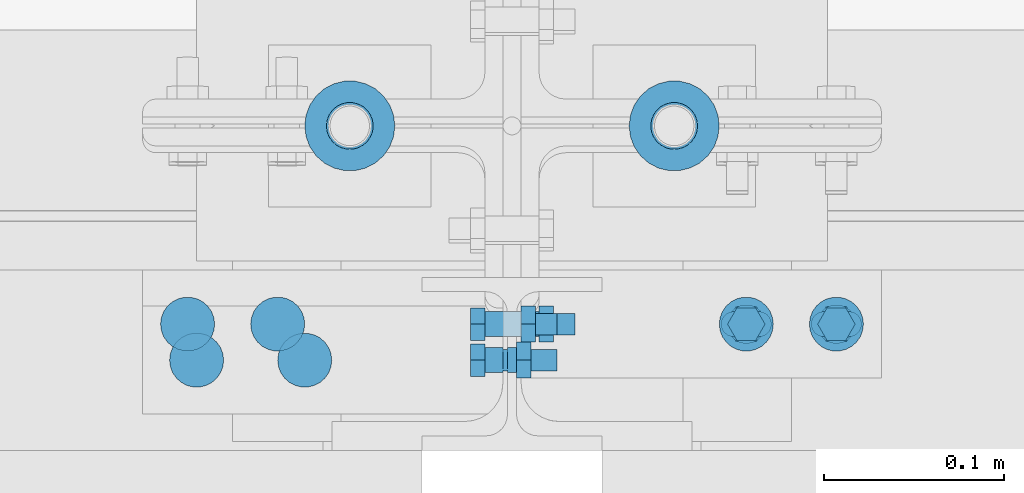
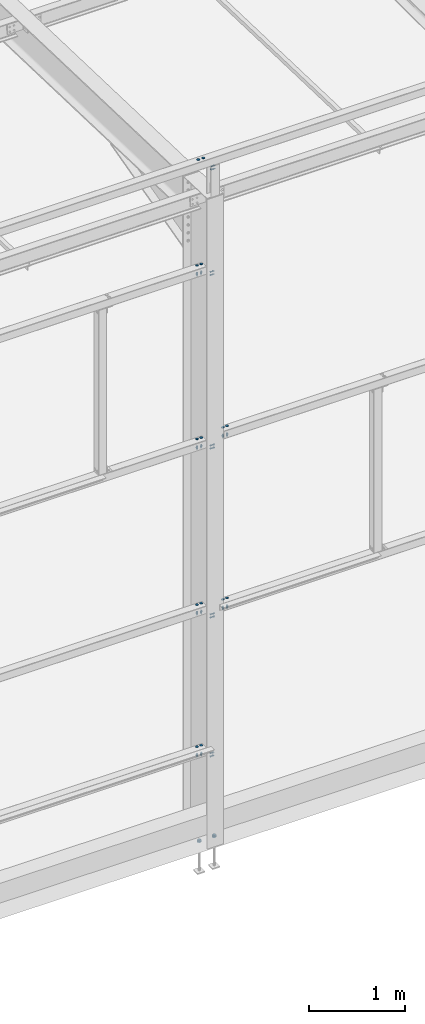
# One storey, part 215 of 362: 22 mechanical fasteners.
"""IFC2X3 building model written with IfcOpenShell, lengths in millimetres."""

from ifc_helpers import new_model, si_unit, frame, frame_2d, origin_with_axes, origin_2d_with_axis, place, context, subcontext, project, spatial, polyline, circle_curve, parameter, trimmed, segment, composite_curve, circle, outline, extrude, source, transform, mapped, material, type_object, element, save


model = new_model("IFC2X3")

# Units and contexts
model_context = context("Model", 3, precision=1e-05, world=origin_with_axes())
body_context = subcontext(model_context, "Body", "Model", "MODEL_VIEW")
ifc_project = project(units=[si_unit("LENGTHUNIT", "METRE", prefix="MILLI"), si_unit("AREAUNIT", "SQUARE_METRE"), si_unit("VOLUMEUNIT", "CUBIC_METRE"), si_unit("MASSUNIT", "GRAM", prefix="KILO"), si_unit("TIMEUNIT", "SECOND"), si_unit("PLANEANGLEUNIT", "RADIAN"), si_unit("SOLIDANGLEUNIT", "STERADIAN"), si_unit("THERMODYNAMICTEMPERATUREUNIT", "DEGREE_CELSIUS"), si_unit("LUMINOUSINTENSITYUNIT", "LUMEN")], contexts=[model_context])

# Site, building, storey
site_placement = place(None, origin_with_axes())
site = spatial("IfcSite", under=ifc_project, at=site_placement, Name="Undefined", CompositionType="ELEMENT")
building_placement = place(site_placement, origin_with_axes())
building = spatial("IfcBuilding", under=site, at=building_placement, Name="Undefined", CompositionType="ELEMENT")
storey_placement = place(building_placement, origin_with_axes())
storey = spatial("IfcBuildingStorey", under=building, at=storey_placement, Name="Undefined", CompositionType="ELEMENT", Elevation=0.0)

# Mechanical fasteners
ifc_material_1 = material(Name="6.8")
mechanical_fastener_type = type_object("IfcMechanicalFastenerType", Name="Bolt assembly")
shared_shape_1 = source(origin_with_axes(), body_context, "Body", "SweptSolid", [
    extrude(circle(Radius=15.0, at=origin_2d_with_axis()), frame((0.0, 0.0, 0.0), z_axis=(0.0, 1.0, 0.0), x_axis=(1.0, 0.0, 0.0)), (0.0, 0.0, 1.0), 4.1),
])
mechanical_fastener_1_placement = place(storey_placement, frame((8305.0000059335, -130.000005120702, 8550.0), z_axis=(0.0, 1.0, 0.0), x_axis=(1.0, 0.0, 0.0)))
element("IfcMechanicalFastener", 1, at=mechanical_fastener_1_placement, inside=storey, type_object=mechanical_fastener_type, material=ifc_material_1, Name="Bolt assembly", NominalDiameter=30.0, NominalLength=4.0, context=body_context, shape_type="MappedRepresentation", body=[
    mapped(shared_shape_1, transform((0.0, 0.0, 0.0))),
    mapped(shared_shape_1, transform((60.0, 0.0, 0.0))),
])
for number, where, z_axis, x_axis, name in (
    (2, (8299.99999742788, -110.000005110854, 1100.0), (0.0, 1.0, 0.0), (1.0, 0.0, 0.0), "Bolt assembly"),
    (3, (8299.99999742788, -110.000005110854, 7200.0), (0.0, 1.0, 0.0), (1.0, 0.0, 0.0), "Bolt assembly"),
    (4, (8299.99999742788, -110.000005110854, 5000.0), (0.0, 1.0, 0.0), (1.0, 0.0, 0.0), "Bolt assembly"),
    (5, (8659.99999742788, -110.000005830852, 5040.0), (0.0, -1.0, 0.0), (-1.0, 0.0, 0.0), "Bolt assembly"),
    (6, (8299.99999742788, -110.000005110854, 2900.0), (0.0, 1.0, 0.0), (1.0, 0.0, 0.0), "Bolt assembly"),
    (7, (8659.99999742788, -110.000005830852, 2860.0), (0.0, -1.0, 0.0), (-1.0, 0.0, 0.0), "Bolt assembly"),
):
    element("IfcMechanicalFastener", number, at=place(storey_placement, frame(where, z_axis=z_axis, x_axis=x_axis)), inside=storey, type_object=mechanical_fastener_type, material=ifc_material_1, Name=name, NominalDiameter=30.0, NominalLength=4.0, context=body_context, shape_type="MappedRepresentation", body=[
        mapped(shared_shape_1, transform((0.0, 0.0, 0.0))),
        mapped(shared_shape_1, transform((49.9999999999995, 0.0, -3.63797880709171e-12))),
    ])
ifc_material_2 = material(Name="8.8-SB-ZINGUE")
shared_shape_2 = source(origin_with_axes(), body_context, "Body", "SweptSolid", [
    extrude(circle(Radius=7.0, at=origin_2d_with_axis()), frame((0.0, -2.60000006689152, 0.0), z_axis=(0.0, 1.0, 0.0), x_axis=(1.0, 0.0, 0.0)), (0.0, 0.0, 1.0), 5.1),
    extrude(circle(Radius=7.0, at=origin_2d_with_axis()), frame((0.0, -14.899999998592, 0.0), z_axis=(0.0, 1.0, 0.0), x_axis=(1.0, 0.0, 0.0)), (0.0, 0.0, 1.0), 10.0),
    extrude(outline(polyline([(10.39230484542, 0.0), (5.19615242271, 9.00000000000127), (-5.19615242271, 9.00000000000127), (-10.39230484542, 0.0), (-5.19615242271, -9.00000000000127), (5.19615242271, -9.00000000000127), (10.39230484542, 0.0)])), frame((0.0, -22.919999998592, 0.0), z_axis=(0.0, 1.0, 0.0), x_axis=(1.0, 0.0, 0.0)), (0.0, 0.0, 1.0), 7.92),
    extrude(circle(Radius=6.0, at=origin_2d_with_axis()), frame((0.0, -14.999999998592, 0.0), z_axis=(0.0, 1.0, 0.0), x_axis=(1.0, 0.0, 0.0)), (0.0, 0.0, 1.0), 40.0),
    extrude(outline(polyline([(11.5008173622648, 0.0), (5.7504086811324, 9.96000000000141), (-5.7504086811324, 9.96000000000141), (-11.5008173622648, 0.0), (-5.7504086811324, -9.96000000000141), (5.7504086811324, -9.96000000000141), (11.5008173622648, 0.0)])), frame((0.0, 2.49999993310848, 0.0), z_axis=(0.0, 1.0, 0.0), x_axis=(1.0, 0.0, 0.0)), (0.0, 0.0, 1.0), 7.92),
])
mechanical_fastener_2_placement = place(storey_placement, frame((8480.00000529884, -130.000007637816, 8370.0), z_axis=(0.0, 1.0, 0.0), x_axis=(0.0, 0.0, 1.0)))
element("IfcMechanicalFastener", 8, at=mechanical_fastener_2_placement, inside=storey, type_object=mechanical_fastener_type, material=ifc_material_2, Name="Bolt assembly", NominalDiameter=12.0, NominalLength=40.0, context=body_context, shape_type="MappedRepresentation", body=[
    mapped(shared_shape_2, transform((0.0, 0.0, 0.0))),
    mapped(shared_shape_2, transform((40.0, 0.0, 0.0))),
])
shared_shape_3 = source(origin_with_axes(), body_context, "Body", "SweptSolid", [
    extrude(circle(Radius=7.0, at=origin_2d_with_axis()), frame((0.0, -5.20247238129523, 0.0), z_axis=(0.0, 1.0, 0.0), x_axis=(1.0, 0.0, 0.0)), (0.0, 0.0, 1.0), 10.3),
    extrude(circle(Radius=7.0, at=origin_2d_with_axis()), frame((0.0, -14.899999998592, 0.0), z_axis=(0.0, 1.0, 0.0), x_axis=(1.0, 0.0, 0.0)), (0.0, 0.0, 1.0), 10.0),
    extrude(outline(polyline([(10.39230484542, 0.0), (5.19615242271, 9.00000000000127), (-5.19615242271, 9.00000000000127), (-10.39230484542, 0.0), (-5.19615242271, -9.00000000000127), (5.19615242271, -9.00000000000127), (10.39230484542, 0.0)])), frame((0.0, -22.919999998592, 0.0), z_axis=(0.0, 1.0, 0.0), x_axis=(1.0, 0.0, 0.0)), (0.0, 0.0, 1.0), 7.92),
    extrude(circle(Radius=6.0, at=origin_2d_with_axis()), frame((0.0, -14.999999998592, 0.0), z_axis=(0.0, 1.0, 0.0), x_axis=(1.0, 0.0, 0.0)), (0.0, 0.0, 1.0), 40.0),
    extrude(outline(polyline([(11.5008173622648, 0.0), (5.7504086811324, 9.96000000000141), (-5.7504086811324, 9.96000000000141), (-11.5008173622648, 0.0), (-5.7504086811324, -9.96000000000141), (5.7504086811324, -9.96000000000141), (11.5008173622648, 0.0)])), frame((0.0, 5.09752742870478, 0.0), z_axis=(0.0, 1.0, 0.0), x_axis=(1.0, 0.0, 0.0)), (0.0, 0.0, 1.0), 7.92),
])
mechanical_fastener_3_placement = place(storey_placement, frame((8480.0, -110.000007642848, 920.0), z_axis=(0.0, 1.0, 0.0), x_axis=(0.0, 0.0, 1.0)))
element("IfcMechanicalFastener", 9, at=mechanical_fastener_3_placement, inside=storey, type_object=mechanical_fastener_type, material=ifc_material_2, Name="Bolt assembly", NominalDiameter=12.0, NominalLength=40.0, context=body_context, shape_type="MappedRepresentation", body=[
    mapped(shared_shape_3, transform((0.0, 0.0, 0.0))),
    mapped(shared_shape_3, transform((40.0, 0.0, 0.0))),
])
shared_shape_4 = source(origin_with_axes(), body_context, "Body", "SweptSolid", [
    extrude(circle(Radius=7.0, at=origin_2d_with_axis()), frame((0.0, -3.89999843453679, 0.0), z_axis=(0.0, 1.0, 0.0), x_axis=(1.0, 0.0, 0.0)), (0.0, 0.0, 1.0), 4.0),
    extrude(outline(composite_curve([segment(polyline([(-7.0, 7.0), (7.0, 7.0)]), True, "CONTINUOUS"), segment(trimmed(circle_curve(frame_2d((7.0, 0.0), x_axis=(0.0, 1.0)), 7.0), [parameter(0.0)], [parameter(3.14159265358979)], False, "PARAMETER"), True, "CONTINUOUS"), segment(polyline([(7.0, -7.0), (-7.0, -7.0)]), True, "CONTINUOUS"), segment(trimmed(circle_curve(frame_2d((-7.0, 0.0), x_axis=(0.0, -1.0)), 7.0), [parameter(0.0)], [parameter(3.14159265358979)], False, "PARAMETER"), True, "DISCONTINUOUS")], self_intersect=False)), frame((0.0, -0.100011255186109, 0.0), z_axis=(0.0, 1.0, 0.0), x_axis=(1.0, 0.0, 0.0)), (0.0, 0.0, 1.0), 10.1),
    extrude(outline(polyline([(10.39230484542, 0.0), (5.19615242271, 9.00000000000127), (-5.19615242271, 9.00000000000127), (-10.39230484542, 0.0), (-5.19615242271, -9.00000000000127), (5.19615242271, -9.00000000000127), (10.39230484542, 0.0)])), frame((0.0, -11.9199984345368, 0.0), z_axis=(0.0, 1.0, 0.0), x_axis=(1.0, 0.0, 0.0)), (0.0, 0.0, 1.0), 7.92),
    extrude(circle(Radius=6.0, at=origin_2d_with_axis()), frame((0.0, -3.99999923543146, 0.0), z_axis=(0.0, 1.0, 0.0), x_axis=(1.0, 0.0, 0.0)), (0.0, 0.0, 1.0), 40.0),
    extrude(circle(Radius=10.8, at=origin_2d_with_axis()), frame((0.0, 10.0000000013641, 0.0), z_axis=(0.0, 1.0, 0.0), x_axis=(1.0, 0.0, 0.0)), (0.0, 0.0, 1.0), 3.96),
    extrude(outline(polyline([(11.5008173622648, 0.0), (5.7504086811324, 9.96000000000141), (-5.7504086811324, 9.96000000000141), (-11.5008173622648, 0.0), (-5.7504086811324, -9.96000000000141), (5.7504086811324, -9.96000000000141), (11.5008173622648, 0.0)])), frame((0.0, 13.96, 0.0), z_axis=(0.0, 1.0, 0.0), x_axis=(1.0, 0.0, 0.0)), (0.0, 0.0, 1.0), 7.92),
])
mechanical_fastener_4_placement = place(storey_placement, frame((8299.99999742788, -110.000005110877, 1000.0), z_axis=(0.0, 1.0, 0.0), x_axis=(1.0, 0.0, 0.0)))
element("IfcMechanicalFastener", 10, at=mechanical_fastener_4_placement, inside=storey, type_object=mechanical_fastener_type, material=ifc_material_2, Name="Bolt assembly", NominalDiameter=12.0, NominalLength=40.0, context=body_context, shape_type="MappedRepresentation", body=[
    mapped(shared_shape_4, transform((0.0, 0.0, 0.0))),
    mapped(shared_shape_4, transform((49.9999999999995, 0.0, -3.63797880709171e-12))),
])
shared_shape_5 = source(origin_with_axes(), body_context, "Body", "SweptSolid", [
    extrude(circle(Radius=7.0, at=origin_2d_with_axis()), frame((0.0, -5.20035653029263, 0.0), z_axis=(0.0, 1.0, 0.0), x_axis=(1.0, 0.0, 0.0)), (0.0, 0.0, 1.0), 10.3),
    extrude(circle(Radius=7.0, at=origin_2d_with_axis()), frame((0.0, -14.899999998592, 0.0), z_axis=(0.0, 1.0, 0.0), x_axis=(1.0, 0.0, 0.0)), (0.0, 0.0, 1.0), 10.0),
    extrude(outline(polyline([(10.39230484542, 0.0), (5.19615242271, 9.00000000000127), (-5.19615242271, 9.00000000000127), (-10.39230484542, 0.0), (-5.19615242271, -9.00000000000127), (5.19615242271, -9.00000000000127), (10.39230484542, 0.0)])), frame((0.0, -22.919999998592, 0.0), z_axis=(0.0, 1.0, 0.0), x_axis=(1.0, 0.0, 0.0)), (0.0, 0.0, 1.0), 7.92),
    extrude(circle(Radius=6.0, at=origin_2d_with_axis()), frame((0.0, -14.999999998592, 0.0), z_axis=(0.0, 1.0, 0.0), x_axis=(1.0, 0.0, 0.0)), (0.0, 0.0, 1.0), 40.0),
    extrude(outline(polyline([(11.5008173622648, 0.0), (5.7504086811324, 9.96000000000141), (-5.7504086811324, 9.96000000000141), (-11.5008173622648, 0.0), (-5.7504086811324, -9.96000000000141), (5.7504086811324, -9.96000000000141), (11.5008173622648, 0.0)])), frame((0.0, 5.0996432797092, 0.0), z_axis=(0.0, 1.0, 0.0), x_axis=(1.0, 0.0, 0.0)), (0.0, 0.0, 1.0), 7.92),
])
mechanical_fastener_5_placement = place(storey_placement, frame((8480.0, -110.000007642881, 7020.0), z_axis=(0.0, 1.0, 0.0), x_axis=(0.0, 0.0, 1.0)))
element("IfcMechanicalFastener", 11, at=mechanical_fastener_5_placement, inside=storey, type_object=mechanical_fastener_type, material=ifc_material_2, Name="Bolt assembly", NominalDiameter=12.0, NominalLength=40.0, context=body_context, shape_type="MappedRepresentation", body=[
    mapped(shared_shape_5, transform((0.0, 0.0, 0.0))),
    mapped(shared_shape_5, transform((40.0, 0.0, 0.0))),
])
shared_shape_6 = source(origin_with_axes(), body_context, "Body", "SweptSolid", [
    extrude(circle(Radius=7.0, at=origin_2d_with_axis()), frame((0.0, -3.89999843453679, 0.0), z_axis=(0.0, 1.0, 0.0), x_axis=(1.0, 0.0, 0.0)), (0.0, 0.0, 1.0), 4.0),
    extrude(outline(composite_curve([segment(polyline([(-7.0, 7.0), (7.0, 7.0)]), True, "CONTINUOUS"), segment(trimmed(circle_curve(frame_2d((7.0, 0.0), x_axis=(0.0, 1.0)), 7.0), [parameter(0.0)], [parameter(3.14159265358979)], False, "PARAMETER"), True, "CONTINUOUS"), segment(polyline([(7.0, -7.0), (-7.0, -7.0)]), True, "CONTINUOUS"), segment(trimmed(circle_curve(frame_2d((-7.0, 0.0), x_axis=(0.0, -1.0)), 7.0), [parameter(0.0)], [parameter(3.14159265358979)], False, "PARAMETER"), True, "DISCONTINUOUS")], self_intersect=False)), frame((0.0, -0.100011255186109, 0.0), z_axis=(0.0, 1.0, 0.0), x_axis=(1.0, 0.0, 0.0)), (0.0, 0.0, 1.0), 10.1),
    extrude(outline(polyline([(10.39230484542, 0.0), (5.19615242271, 9.00000000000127), (-5.19615242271, 9.00000000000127), (-10.39230484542, 0.0), (-5.19615242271, -9.00000000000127), (5.19615242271, -9.00000000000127), (10.39230484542, 0.0)])), frame((0.0, -11.9199984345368, 0.0), z_axis=(0.0, 1.0, 0.0), x_axis=(1.0, 0.0, 0.0)), (0.0, 0.0, 1.0), 7.92),
    extrude(circle(Radius=6.0, at=origin_2d_with_axis()), frame((0.0, -3.99999923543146, 0.0), z_axis=(0.0, 1.0, 0.0), x_axis=(1.0, 0.0, 0.0)), (0.0, 0.0, 1.0), 40.0),
    extrude(circle(Radius=10.8, at=origin_2d_with_axis()), frame((0.0, 10.0000000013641, 0.0), z_axis=(0.0, 1.0, 0.0), x_axis=(1.0, 0.0, 0.0)), (0.0, 0.0, 1.0), 3.96),
    extrude(outline(polyline([(11.5008173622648, 0.0), (5.7504086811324, 9.96000000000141), (-5.7504086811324, 9.96000000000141), (-11.5008173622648, 0.0), (-5.7504086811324, -9.96000000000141), (5.7504086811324, -9.96000000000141), (11.5008173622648, 0.0)])), frame((0.0, 13.96, 0.0), z_axis=(0.0, 1.0, 0.0), x_axis=(1.0, 0.0, 0.0)), (0.0, 0.0, 1.0), 7.92),
])
mechanical_fastener_6_placement = place(storey_placement, frame((8299.99999742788, -110.000005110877, 7100.0), z_axis=(0.0, 1.0, 0.0), x_axis=(1.0, 0.0, 0.0)))
element("IfcMechanicalFastener", 12, at=mechanical_fastener_6_placement, inside=storey, type_object=mechanical_fastener_type, material=ifc_material_2, Name="Bolt assembly", NominalDiameter=12.0, NominalLength=40.0, context=body_context, shape_type="MappedRepresentation", body=[
    mapped(shared_shape_6, transform((0.0, 0.0, 0.0))),
    mapped(shared_shape_6, transform((49.9999999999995, 0.0, -3.63797880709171e-12))),
])
shared_shape_7 = source(origin_with_axes(), body_context, "Body", "SweptSolid", [
    extrude(circle(Radius=7.0, at=origin_2d_with_axis()), frame((0.0, -5.10112302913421, 0.0), z_axis=(0.0, 1.0, 0.0), x_axis=(1.0, 0.0, 0.0)), (0.0, 0.0, 1.0), 10.2),
    extrude(circle(Radius=7.0, at=origin_2d_with_axis()), frame((0.0, -14.899999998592, 0.0), z_axis=(0.0, 1.0, 0.0), x_axis=(1.0, 0.0, 0.0)), (0.0, 0.0, 1.0), 10.0),
    extrude(circle(Radius=7.0, at=origin_2d_with_axis()), frame((0.0, 4.9000000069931, 0.0), z_axis=(0.0, 1.0, 0.0), x_axis=(1.0, 0.0, 0.0)), (0.0, 0.0, 1.0), 10.1),
    extrude(outline(polyline([(10.39230484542, 0.0), (5.19615242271, 9.00000000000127), (-5.19615242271, 9.00000000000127), (-10.39230484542, 0.0), (-5.19615242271, -9.00000000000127), (5.19615242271, -9.00000000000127), (10.39230484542, 0.0)])), frame((0.0, -22.919999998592, 0.0), z_axis=(0.0, 1.0, 0.0), x_axis=(1.0, 0.0, 0.0)), (0.0, 0.0, 1.0), 7.92),
    extrude(circle(Radius=6.0, at=origin_2d_with_axis()), frame((0.0, -14.999999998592, 0.0), z_axis=(0.0, 1.0, 0.0), x_axis=(1.0, 0.0, 0.0)), (0.0, 0.0, 1.0), 50.0),
    extrude(outline(polyline([(11.5008173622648, 0.0), (5.7504086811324, 9.96000000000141), (-5.7504086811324, 9.96000000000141), (-11.5008173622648, 0.0), (-5.7504086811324, -9.96000000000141), (5.7504086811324, -9.96000000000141), (11.5008173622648, 0.0)])), frame((0.0, 15.0000000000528, 0.0), z_axis=(0.0, 1.0, 0.0), x_axis=(1.0, 0.0, 0.0)), (0.0, 0.0, 1.0), 7.92),
])
mechanical_fastener_7_placement = place(storey_placement, frame((8480.0, -110.000007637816, 4820.0), z_axis=(0.0, 1.0, 0.0), x_axis=(0.0, 0.0, 1.0)))
element("IfcMechanicalFastener", 13, at=mechanical_fastener_7_placement, inside=storey, type_object=mechanical_fastener_type, material=ifc_material_2, Name="Bolt assembly", NominalDiameter=12.0, NominalLength=50.0, context=body_context, shape_type="MappedRepresentation", body=[
    mapped(shared_shape_7, transform((0.0, 0.0, 0.0))),
    mapped(shared_shape_7, transform((40.0, 0.0, 0.0))),
])
shared_shape_8 = source(origin_with_axes(), body_context, "Body", "SweptSolid", [
    extrude(circle(Radius=7.0, at=origin_2d_with_axis()), frame((0.0, -3.89999843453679, 0.0), z_axis=(0.0, 1.0, 0.0), x_axis=(1.0, 0.0, 0.0)), (0.0, 0.0, 1.0), 4.0),
    extrude(outline(composite_curve([segment(polyline([(-7.0, 7.0), (7.0, 7.0)]), True, "CONTINUOUS"), segment(trimmed(circle_curve(frame_2d((7.0, 0.0), x_axis=(0.0, 1.0)), 7.0), [parameter(0.0)], [parameter(3.14159265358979)], False, "PARAMETER"), True, "CONTINUOUS"), segment(polyline([(7.0, -7.0), (-7.0, -7.0)]), True, "CONTINUOUS"), segment(trimmed(circle_curve(frame_2d((-7.0, 0.0), x_axis=(0.0, -1.0)), 7.0), [parameter(0.0)], [parameter(3.14159265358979)], False, "PARAMETER"), True, "DISCONTINUOUS")], self_intersect=False)), frame((0.0, -0.100011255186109, 0.0), z_axis=(0.0, 1.0, 0.0), x_axis=(1.0, 0.0, 0.0)), (0.0, 0.0, 1.0), 10.1),
    extrude(outline(polyline([(10.39230484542, 0.0), (5.19615242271, 9.00000000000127), (-5.19615242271, 9.00000000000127), (-10.39230484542, 0.0), (-5.19615242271, -9.00000000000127), (5.19615242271, -9.00000000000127), (10.39230484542, 0.0)])), frame((0.0, -11.9199984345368, 0.0), z_axis=(0.0, 1.0, 0.0), x_axis=(1.0, 0.0, 0.0)), (0.0, 0.0, 1.0), 7.92),
    extrude(circle(Radius=6.0, at=origin_2d_with_axis()), frame((0.0, -3.99999923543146, 0.0), z_axis=(0.0, 1.0, 0.0), x_axis=(1.0, 0.0, 0.0)), (0.0, 0.0, 1.0), 40.0),
    extrude(circle(Radius=10.8, at=origin_2d_with_axis()), frame((0.0, 10.0000000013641, 0.0), z_axis=(0.0, 1.0, 0.0), x_axis=(1.0, 0.0, 0.0)), (0.0, 0.0, 1.0), 3.96),
    extrude(outline(polyline([(11.5008173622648, 0.0), (5.7504086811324, 9.96000000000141), (-5.7504086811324, 9.96000000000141), (-11.5008173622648, 0.0), (-5.7504086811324, -9.96000000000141), (5.7504086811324, -9.96000000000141), (11.5008173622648, 0.0)])), frame((0.0, 13.96, 0.0), z_axis=(0.0, 1.0, 0.0), x_axis=(1.0, 0.0, 0.0)), (0.0, 0.0, 1.0), 7.92),
])
mechanical_fastener_8_placement = place(storey_placement, frame((8299.99999742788, -110.000005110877, 4900.0), z_axis=(0.0, 1.0, 0.0), x_axis=(1.0, 0.0, 0.0)))
element("IfcMechanicalFastener", 14, at=mechanical_fastener_8_placement, inside=storey, type_object=mechanical_fastener_type, material=ifc_material_2, Name="Bolt assembly", NominalDiameter=12.0, NominalLength=40.0, context=body_context, shape_type="MappedRepresentation", body=[
    mapped(shared_shape_8, transform((0.0, 0.0, 0.0))),
    mapped(shared_shape_8, transform((49.9999999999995, 0.0, -3.63797880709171e-12))),
])
shared_shape_9 = source(origin_with_axes(), body_context, "Body", "SweptSolid", [
    extrude(circle(Radius=7.0, at=origin_2d_with_axis()), frame((0.0, -3.89999843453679, 0.0), z_axis=(0.0, 1.0, 0.0), x_axis=(1.0, 0.0, 0.0)), (0.0, 0.0, 1.0), 4.0),
    extrude(outline(composite_curve([segment(polyline([(-7.0, 7.0), (7.0, 7.0)]), True, "CONTINUOUS"), segment(trimmed(circle_curve(frame_2d((7.0, 0.0), x_axis=(0.0, 1.0)), 7.0), [parameter(0.0)], [parameter(3.14159265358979)], False, "PARAMETER"), True, "CONTINUOUS"), segment(polyline([(7.0, -7.0), (-7.0, -7.0)]), True, "CONTINUOUS"), segment(trimmed(circle_curve(frame_2d((-7.0, 0.0), x_axis=(0.0, -1.0)), 7.0), [parameter(0.0)], [parameter(3.14159265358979)], False, "PARAMETER"), True, "DISCONTINUOUS")], self_intersect=False)), frame((0.0, -0.100011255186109, 0.0), z_axis=(0.0, 1.0, 0.0), x_axis=(1.0, 0.0, 0.0)), (0.0, 0.0, 1.0), 10.1),
    extrude(outline(polyline([(10.39230484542, 0.0), (5.19615242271, 9.00000000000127), (-5.19615242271, 9.00000000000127), (-10.39230484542, 0.0), (-5.19615242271, -9.00000000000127), (5.19615242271, -9.00000000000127), (10.39230484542, 0.0)])), frame((0.0, -11.9199984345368, 0.0), z_axis=(0.0, 1.0, 0.0), x_axis=(1.0, 0.0, 0.0)), (0.0, 0.0, 1.0), 7.92),
    extrude(circle(Radius=6.0, at=origin_2d_with_axis()), frame((0.0, -3.99999923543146, 0.0), z_axis=(0.0, 1.0, 0.0), x_axis=(1.0, 0.0, 0.0)), (0.0, 0.0, 1.0), 40.0),
    extrude(circle(Radius=10.8, at=origin_2d_with_axis()), frame((0.0, 10.0000000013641, 0.0), z_axis=(0.0, 1.0, 0.0), x_axis=(1.0, 0.0, 0.0)), (0.0, 0.0, 1.0), 3.96),
    extrude(outline(polyline([(11.5008173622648, 0.0), (5.7504086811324, 9.96000000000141), (-5.7504086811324, 9.96000000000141), (-11.5008173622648, 0.0), (-5.7504086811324, -9.96000000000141), (5.7504086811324, -9.96000000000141), (11.5008173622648, 0.0)])), frame((0.0, 13.96, 0.0), z_axis=(0.0, 1.0, 0.0), x_axis=(1.0, 0.0, 0.0)), (0.0, 0.0, 1.0), 7.92),
])
mechanical_fastener_9_placement = place(storey_placement, frame((8659.99999742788, -110.000005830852, 4940.0), z_axis=(0.0, -1.0, 0.0), x_axis=(-1.0, 0.0, 0.0)))
element("IfcMechanicalFastener", 15, at=mechanical_fastener_9_placement, inside=storey, type_object=mechanical_fastener_type, material=ifc_material_2, Name="Bolt assembly", NominalDiameter=12.0, NominalLength=40.0, context=body_context, shape_type="MappedRepresentation", body=[
    mapped(shared_shape_9, transform((0.0, 0.0, 0.0))),
    mapped(shared_shape_9, transform((49.9999999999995, 0.0, -3.63797880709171e-12))),
])
shared_shape_10 = source(origin_with_axes(), body_context, "Body", "SweptSolid", [
    extrude(circle(Radius=7.0, at=origin_2d_with_axis()), frame((0.0, -5.10183049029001, 0.0), z_axis=(0.0, 1.0, 0.0), x_axis=(1.0, 0.0, 0.0)), (0.0, 0.0, 1.0), 10.2),
    extrude(circle(Radius=7.0, at=origin_2d_with_axis()), frame((0.0, -14.899999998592, 0.0), z_axis=(0.0, 1.0, 0.0), x_axis=(1.0, 0.0, 0.0)), (0.0, 0.0, 1.0), 10.0),
    extrude(circle(Radius=7.0, at=origin_2d_with_axis()), frame((0.0, 4.9000000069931, 0.0), z_axis=(0.0, 1.0, 0.0), x_axis=(1.0, 0.0, 0.0)), (0.0, 0.0, 1.0), 10.1),
    extrude(outline(polyline([(10.39230484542, 0.0), (5.19615242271, 9.00000000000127), (-5.19615242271, 9.00000000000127), (-10.39230484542, 0.0), (-5.19615242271, -9.00000000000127), (5.19615242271, -9.00000000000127), (10.39230484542, 0.0)])), frame((0.0, -22.919999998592, 0.0), z_axis=(0.0, 1.0, 0.0), x_axis=(1.0, 0.0, 0.0)), (0.0, 0.0, 1.0), 7.92),
    extrude(circle(Radius=6.0, at=origin_2d_with_axis()), frame((0.0, -14.999999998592, 0.0), z_axis=(0.0, 1.0, 0.0), x_axis=(1.0, 0.0, 0.0)), (0.0, 0.0, 1.0), 50.0),
    extrude(outline(polyline([(11.5008173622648, 0.0), (5.7504086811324, 9.96000000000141), (-5.7504086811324, 9.96000000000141), (-11.5008173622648, 0.0), (-5.7504086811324, -9.96000000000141), (5.7504086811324, -9.96000000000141), (11.5008173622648, 0.0)])), frame((0.0, 15.0000000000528, 0.0), z_axis=(0.0, 1.0, 0.0), x_axis=(1.0, 0.0, 0.0)), (0.0, 0.0, 1.0), 7.92),
])
mechanical_fastener_10_placement = place(storey_placement, frame((8480.0, -110.000007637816, 2680.0), z_axis=(0.0, 1.0, 0.0), x_axis=(0.0, 0.0, 1.0)))
element("IfcMechanicalFastener", 16, at=mechanical_fastener_10_placement, inside=storey, type_object=mechanical_fastener_type, material=ifc_material_2, Name="Bolt assembly", NominalDiameter=12.0, NominalLength=50.0, context=body_context, shape_type="MappedRepresentation", body=[
    mapped(shared_shape_10, transform((0.0, 0.0, 0.0))),
    mapped(shared_shape_10, transform((40.0, 0.0, 0.0))),
])
shared_shape_11 = source(origin_with_axes(), body_context, "Body", "SweptSolid", [
    extrude(circle(Radius=7.0, at=origin_2d_with_axis()), frame((0.0, -3.89999843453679, 0.0), z_axis=(0.0, 1.0, 0.0), x_axis=(1.0, 0.0, 0.0)), (0.0, 0.0, 1.0), 4.0),
    extrude(outline(composite_curve([segment(polyline([(-7.0, 7.0), (7.0, 7.0)]), True, "CONTINUOUS"), segment(trimmed(circle_curve(frame_2d((7.0, 0.0), x_axis=(0.0, 1.0)), 7.0), [parameter(0.0)], [parameter(3.14159265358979)], False, "PARAMETER"), True, "CONTINUOUS"), segment(polyline([(7.0, -7.0), (-7.0, -7.0)]), True, "CONTINUOUS"), segment(trimmed(circle_curve(frame_2d((-7.0, 0.0), x_axis=(0.0, -1.0)), 7.0), [parameter(0.0)], [parameter(3.14159265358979)], False, "PARAMETER"), True, "DISCONTINUOUS")], self_intersect=False)), frame((0.0, -0.100011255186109, 0.0), z_axis=(0.0, 1.0, 0.0), x_axis=(1.0, 0.0, 0.0)), (0.0, 0.0, 1.0), 10.1),
    extrude(outline(polyline([(10.39230484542, 0.0), (5.19615242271, 9.00000000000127), (-5.19615242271, 9.00000000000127), (-10.39230484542, 0.0), (-5.19615242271, -9.00000000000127), (5.19615242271, -9.00000000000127), (10.39230484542, 0.0)])), frame((0.0, -11.9199984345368, 0.0), z_axis=(0.0, 1.0, 0.0), x_axis=(1.0, 0.0, 0.0)), (0.0, 0.0, 1.0), 7.92),
    extrude(circle(Radius=6.0, at=origin_2d_with_axis()), frame((0.0, -3.99999923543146, 0.0), z_axis=(0.0, 1.0, 0.0), x_axis=(1.0, 0.0, 0.0)), (0.0, 0.0, 1.0), 40.0),
    extrude(circle(Radius=10.8, at=origin_2d_with_axis()), frame((0.0, 10.0000000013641, 0.0), z_axis=(0.0, 1.0, 0.0), x_axis=(1.0, 0.0, 0.0)), (0.0, 0.0, 1.0), 3.96),
    extrude(outline(polyline([(11.5008173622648, 0.0), (5.7504086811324, 9.96000000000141), (-5.7504086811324, 9.96000000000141), (-11.5008173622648, 0.0), (-5.7504086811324, -9.96000000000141), (5.7504086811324, -9.96000000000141), (11.5008173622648, 0.0)])), frame((0.0, 13.96, 0.0), z_axis=(0.0, 1.0, 0.0), x_axis=(1.0, 0.0, 0.0)), (0.0, 0.0, 1.0), 7.92),
])
mechanical_fastener_11_placement = place(storey_placement, frame((8299.99999742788, -110.000005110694, 2800.0), z_axis=(0.0, 1.0, 0.0), x_axis=(1.0, 0.0, 0.0)))
element("IfcMechanicalFastener", 17, at=mechanical_fastener_11_placement, inside=storey, type_object=mechanical_fastener_type, material=ifc_material_2, Name="Bolt assembly", NominalDiameter=12.0, NominalLength=40.0, context=body_context, shape_type="MappedRepresentation", body=[
    mapped(shared_shape_11, transform((0.0, 0.0, 0.0))),
    mapped(shared_shape_11, transform((49.9999999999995, 0.0, -3.63797880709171e-12))),
])
shared_shape_12 = source(origin_with_axes(), body_context, "Body", "SweptSolid", [
    extrude(circle(Radius=7.0, at=origin_2d_with_axis()), frame((0.0, -3.89999843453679, 0.0), z_axis=(0.0, 1.0, 0.0), x_axis=(1.0, 0.0, 0.0)), (0.0, 0.0, 1.0), 4.0),
    extrude(outline(composite_curve([segment(polyline([(-7.0, 7.0), (7.0, 7.0)]), True, "CONTINUOUS"), segment(trimmed(circle_curve(frame_2d((7.0, 0.0), x_axis=(0.0, 1.0)), 7.0), [parameter(0.0)], [parameter(3.14159265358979)], False, "PARAMETER"), True, "CONTINUOUS"), segment(polyline([(7.0, -7.0), (-7.0, -7.0)]), True, "CONTINUOUS"), segment(trimmed(circle_curve(frame_2d((-7.0, 0.0), x_axis=(0.0, -1.0)), 7.0), [parameter(0.0)], [parameter(3.14159265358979)], False, "PARAMETER"), True, "DISCONTINUOUS")], self_intersect=False)), frame((0.0, -0.100011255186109, 0.0), z_axis=(0.0, 1.0, 0.0), x_axis=(1.0, 0.0, 0.0)), (0.0, 0.0, 1.0), 10.1),
    extrude(outline(polyline([(10.39230484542, 0.0), (5.19615242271, 9.00000000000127), (-5.19615242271, 9.00000000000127), (-10.39230484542, 0.0), (-5.19615242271, -9.00000000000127), (5.19615242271, -9.00000000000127), (10.39230484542, 0.0)])), frame((0.0, -11.9199984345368, 0.0), z_axis=(0.0, 1.0, 0.0), x_axis=(1.0, 0.0, 0.0)), (0.0, 0.0, 1.0), 7.92),
    extrude(circle(Radius=6.0, at=origin_2d_with_axis()), frame((0.0, -3.99999923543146, 0.0), z_axis=(0.0, 1.0, 0.0), x_axis=(1.0, 0.0, 0.0)), (0.0, 0.0, 1.0), 40.0),
    extrude(circle(Radius=10.8, at=origin_2d_with_axis()), frame((0.0, 10.0000000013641, 0.0), z_axis=(0.0, 1.0, 0.0), x_axis=(1.0, 0.0, 0.0)), (0.0, 0.0, 1.0), 3.96),
    extrude(outline(polyline([(11.5008173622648, 0.0), (5.7504086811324, 9.96000000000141), (-5.7504086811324, 9.96000000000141), (-11.5008173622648, 0.0), (-5.7504086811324, -9.96000000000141), (5.7504086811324, -9.96000000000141), (11.5008173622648, 0.0)])), frame((0.0, 13.96, 0.0), z_axis=(0.0, 1.0, 0.0), x_axis=(1.0, 0.0, 0.0)), (0.0, 0.0, 1.0), 7.92),
])
mechanical_fastener_12_placement = place(storey_placement, frame((8659.99999742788, -110.000005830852, 2760.0), z_axis=(0.0, -1.0, 0.0), x_axis=(-1.0, 0.0, 0.0)))
element("IfcMechanicalFastener", 18, at=mechanical_fastener_12_placement, inside=storey, type_object=mechanical_fastener_type, material=ifc_material_2, Name="Bolt assembly", NominalDiameter=12.0, NominalLength=40.0, context=body_context, shape_type="MappedRepresentation", body=[
    mapped(shared_shape_12, transform((0.0, 0.0, 0.0))),
    mapped(shared_shape_12, transform((49.9999999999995, 0.0, -3.63797880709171e-12))),
])
shared_shape_13 = source(origin_with_axes(), body_context, "Body", "SweptSolid", [
    extrude(circle(Radius=25.0, at=origin_2d_with_axis()), frame((0.0, -14.999999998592, 0.0), z_axis=(0.0, 1.0, 0.0), x_axis=(1.0, 0.0, 0.0)), (0.0, 0.0, 1.0), 15.1),
])
for number, where, z_axis, x_axis, name in (
    (19, (8389.99715045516, -7.28869054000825e-09, -200.000000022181), (0.0, 1.0, 0.0), (1.0, 0.0, 0.0), "Bolt assembly"),
    (20, (8569.99715045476, -7.32143234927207e-09, -200.000000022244), (0.0, -1.0, 0.0), (-1.0, 0.0, 0.0), "Bolt assembly"),
):
    element("IfcMechanicalFastener", number, at=place(storey_placement, frame(where, z_axis=z_axis, x_axis=x_axis)), inside=storey, type_object=mechanical_fastener_type, material=ifc_material_1, Name=name, NominalDiameter=30.0, NominalLength=15.0, context=body_context, shape_type="MappedRepresentation", body=[
        mapped(shared_shape_13, transform((0.0, 0.0, 0.0))),
    ])
shared_shape_14 = source(origin_with_axes(), body_context, "Body", "SweptSolid", [
    extrude(circle(Radius=13.0, at=origin_2d_with_axis()), frame((0.0, -14.999999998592, 0.0), z_axis=(0.0, 1.0, 0.0), x_axis=(1.0, 0.0, 0.0)), (0.0, 0.0, 1.0), 15.1),
])
for number, where, z_axis, x_axis, name in (
    (21, (8389.99715044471, 0.0, -185.0), (0.0, -1.0, 0.0), (-1.0, 0.0, 0.0), "Bolt assembly"),
    (22, (8569.99715044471, 0.0, -185.0), (0.0, -1.0, 0.0), (-1.0, 0.0, 0.0), "Bolt assembly"),
):
    element("IfcMechanicalFastener", number, at=place(storey_placement, frame(where, z_axis=z_axis, x_axis=x_axis)), inside=storey, type_object=mechanical_fastener_type, material=ifc_material_1, Name=name, NominalDiameter=24.0, NominalLength=15.0, context=body_context, shape_type="MappedRepresentation", body=[
        mapped(shared_shape_14, transform((0.0, 0.0, 0.0))),
    ])

save(model, "model.ifc")
